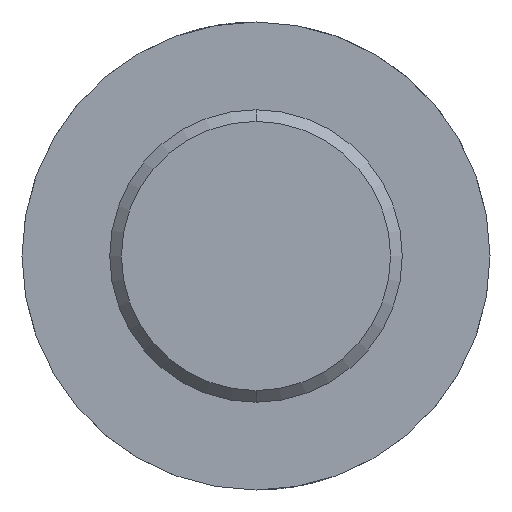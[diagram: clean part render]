
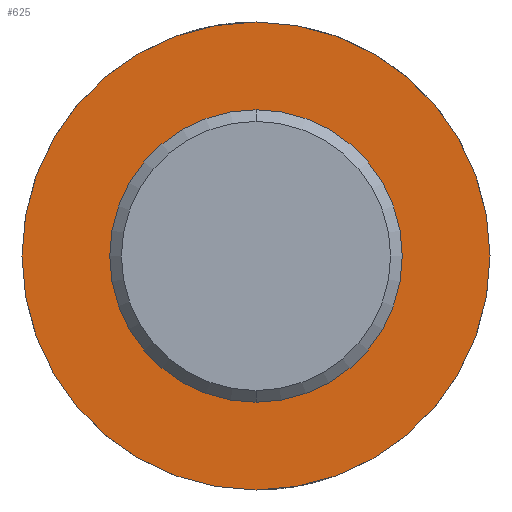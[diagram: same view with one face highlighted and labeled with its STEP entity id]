
A CAD part, front view. The second image highlights one B-rep face of the part: STEP entity #625.
In plain terms, the highlighted planar face has unit normal (0, -1, 0).
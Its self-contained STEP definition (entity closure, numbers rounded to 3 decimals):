
#2 = DIRECTION ( 'NONE',  ( 0., 0., -1. ) ) ;
#15 = CIRCLE ( 'NONE', #53, 2.5 ) ;
#17 = EDGE_LOOP ( 'NONE', ( #56, #354 ) ) ;
#18 = EDGE_CURVE ( 'NONE', #498, #546, #159, .T. ) ;
#43 = AXIS2_PLACEMENT_3D ( 'NONE', #448, #209, #169 ) ;
#50 = ORIENTED_EDGE ( 'NONE', *, *, #343, .F. ) ;
#53 = AXIS2_PLACEMENT_3D ( 'NONE', #409, #149, #2 ) ;
#56 = ORIENTED_EDGE ( 'NONE', *, *, #18, .F. ) ;
#70 = CARTESIAN_POINT ( 'NONE',  ( 0., 0., -4. ) ) ;
#95 = VERTEX_POINT ( 'NONE', #344 ) ;
#132 = CARTESIAN_POINT ( 'NONE',  ( 0., 0., 4. ) ) ;
#149 = DIRECTION ( 'NONE',  ( 0., -1., 0. ) ) ;
#152 = CARTESIAN_POINT ( 'NONE',  ( 0., 0., -2.5 ) ) ;
#159 = CIRCLE ( 'NONE', #521, 4. ) ;
#169 = DIRECTION ( 'NONE',  ( 0., 0., -1. ) ) ;
#171 = DIRECTION ( 'NONE',  ( 0., 1., 0. ) ) ;
#209 = DIRECTION ( 'NONE',  ( 0., -1., 0. ) ) ;
#223 = CIRCLE ( 'NONE', #320, 4. ) ;
#242 = AXIS2_PLACEMENT_3D ( 'NONE', #356, #353, #350 ) ;
#252 = PLANE ( 'NONE',  #43 ) ;
#296 = EDGE_CURVE ( 'NONE', #546, #498, #223, .T. ) ;
#320 = AXIS2_PLACEMENT_3D ( 'NONE', #426, #425, #422 ) ;
#343 = EDGE_CURVE ( 'NONE', #95, #475, #512, .T. ) ;
#344 = CARTESIAN_POINT ( 'NONE',  ( 0., 0., 2.5 ) ) ;
#350 = DIRECTION ( 'NONE',  ( 0., 0., -1. ) ) ;
#353 = DIRECTION ( 'NONE',  ( 0., -1., 0. ) ) ;
#354 = ORIENTED_EDGE ( 'NONE', *, *, #296, .F. ) ;
#356 = CARTESIAN_POINT ( 'NONE',  ( 0., 0., 0. ) ) ;
#407 = FACE_BOUND ( 'NONE', #464, .T. ) ;
#409 = CARTESIAN_POINT ( 'NONE',  ( 0., 0., 0. ) ) ;
#422 = DIRECTION ( 'NONE',  ( 0., 0., 1. ) ) ;
#425 = DIRECTION ( 'NONE',  ( 0., 1., 0. ) ) ;
#426 = CARTESIAN_POINT ( 'NONE',  ( 0., 0., 0. ) ) ;
#448 = CARTESIAN_POINT ( 'NONE',  ( -4., 0., 0. ) ) ;
#464 = EDGE_LOOP ( 'NONE', ( #50, #592 ) ) ;
#475 = VERTEX_POINT ( 'NONE', #152 ) ;
#498 = VERTEX_POINT ( 'NONE', #132 ) ;
#501 = DIRECTION ( 'NONE',  ( 0., 0., 1. ) ) ;
#512 = CIRCLE ( 'NONE', #242, 2.5 ) ;
#521 = AXIS2_PLACEMENT_3D ( 'NONE', #562, #171, #501 ) ;
#546 = VERTEX_POINT ( 'NONE', #70 ) ;
#562 = CARTESIAN_POINT ( 'NONE',  ( 0., 0., 0. ) ) ;
#592 = ORIENTED_EDGE ( 'NONE', *, *, #629, .F. ) ;
#599 = FACE_OUTER_BOUND ( 'NONE', #17, .T. ) ;
#625 = ADVANCED_FACE ( 'NONE', ( #599, #407 ), #252, .T. ) ;
#629 = EDGE_CURVE ( 'NONE', #475, #95, #15, .T. ) ;
